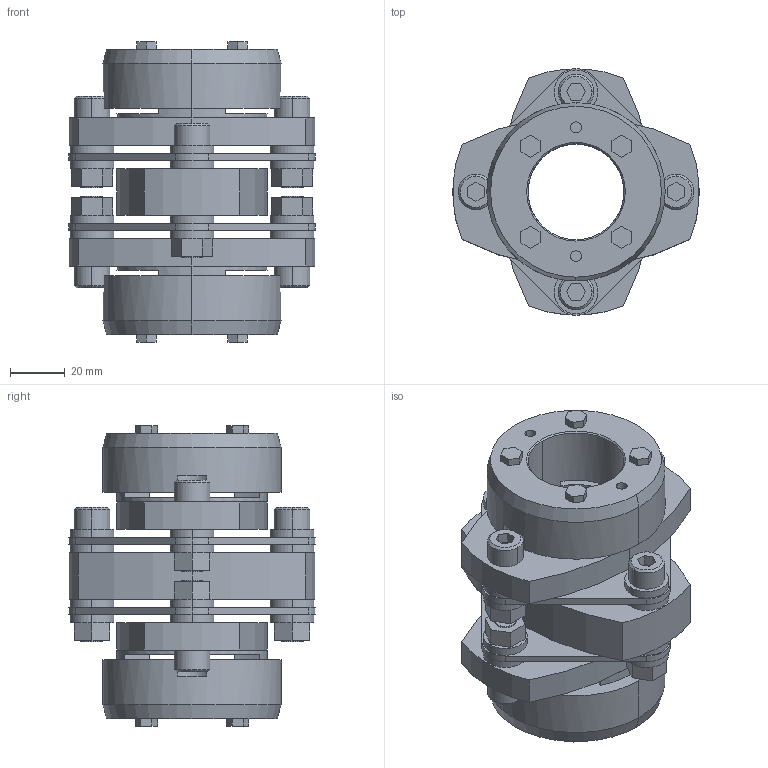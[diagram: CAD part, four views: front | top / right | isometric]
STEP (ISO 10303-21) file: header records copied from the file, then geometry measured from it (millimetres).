
FILE_DESCRIPTION((''),'2;1');
FILE_NAME('LCD-90T7-35×35.stp','2011-09-12T10:11:59',(''),(''),'AutoCAD STEP 2000i','AutoCAD 2000i',', , ');
FILE_SCHEMA(('CONFIG_CONTROL_DESIGN'));
Length unit declared in the file: millimetre
Products named in the file (13): LCD-90T7-35×35; 忣兜1; LC90T7-T035-1; LC90T7-T035; LC90T7-T032-1; LC90T7-T032; LC90T7-T030-1; LC90T7-T030; LC90T7-T025-1; LC90T7-T025; LC90T7-T019-1; LC90T7-T019; LCD90-ITA
Assembly tree (13 placements, depth 2):
  LCD-90T7-35×35
    忣兜1
    LC90T7-T035-1
    LC90T7-T035  x2
    LC90T7-T032-1
    LC90T7-T032
    LC90T7-T030-1
    LC90T7-T030
    LC90T7-T025-1
    LC90T7-T025
    LC90T7-T019-1
    LC90T7-T019
    LCD90-ITA
Bounding box: 90 x 89.94 x 109.6 mm (x, y, z)
Volume: 262075.4 mm3; surface area: 74612.9 mm2
Topology: 1 solids, 1 shells, 344 faces, 840 edges, 548 vertices
Faces by surface type: plane 196, cylinder 124, cone 24
Entity records: 10455 total; most frequent: DIRECTION 1852, CARTESIAN_POINT 1746, ORIENTED_EDGE 1680, EDGE_CURVE 840, AXIS2_PLACEMENT_3D 654, VERTEX_POINT 548, VECTOR 544, LINE 544
